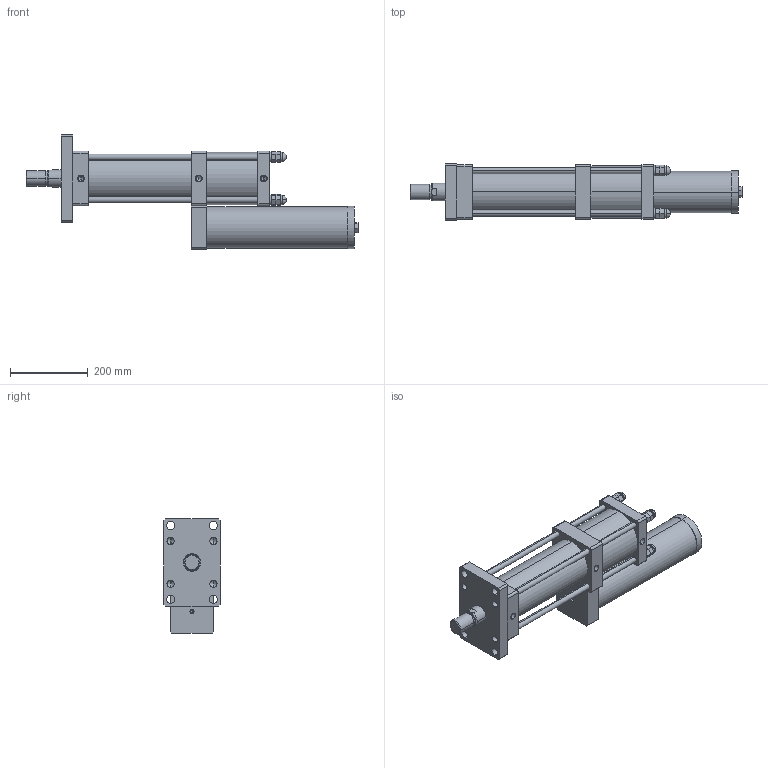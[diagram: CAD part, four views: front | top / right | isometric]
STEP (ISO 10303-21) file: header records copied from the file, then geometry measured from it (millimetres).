
FILE_DESCRIPTION (( 'STEP AP203' ), '1' );
FILE_NAME ('MPT-100-200-5-13T.STEP', '2016-03-28T10:21:16', ( 'WIN' ), ( '' ), 'SwSTEP 2.0', 'SolidWorks 2014', '' );
FILE_SCHEMA (( 'CONFIG_CONTROL_DESIGN' ));
Length unit declared in the file: millimetre
Products named in the file (1): MPT-100-200-5-13T
Bounding box: 853 x 145 x 294.5 mm (x, y, z)
Volume: 11945074.1 mm3; surface area: 753577.7 mm2
Topology: 13 solids, 13 shells, 400 faces, 980 edges, 555 vertices
Faces by surface type: plane 188, cylinder 80, torus 48, bspline 48, cone 36
Entity records: 12751 total; most frequent: CARTESIAN_POINT 3688, DIRECTION 1936, ORIENTED_EDGE 1812, EDGE_CURVE 906, AXIS2_PLACEMENT_3D 727, VERTEX_POINT 555, LINE 482, VECTOR 482
